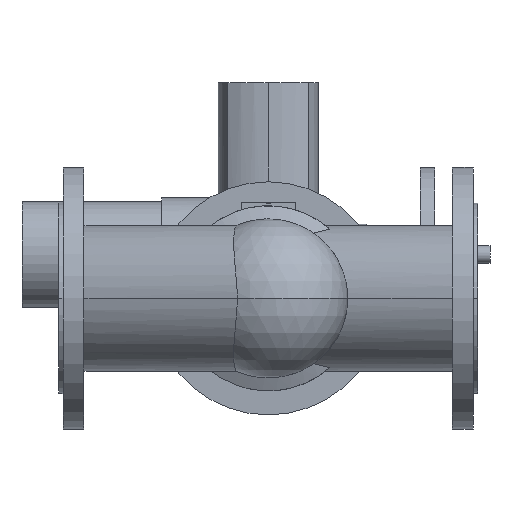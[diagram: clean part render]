
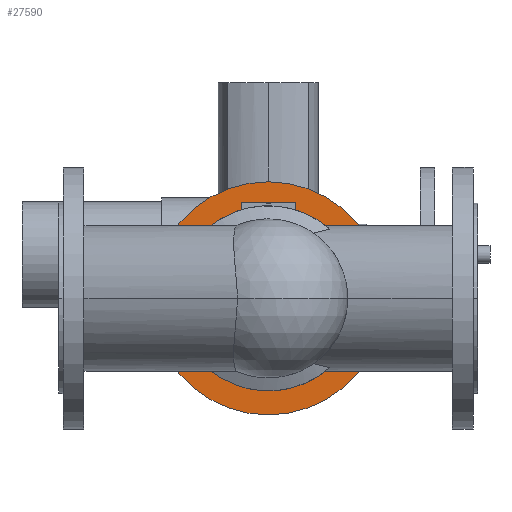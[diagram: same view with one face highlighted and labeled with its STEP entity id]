
A CAD part, front view. The second image highlights one B-rep face of the part: STEP entity #27590.
In plain terms, the highlighted planar face has unit normal (0, -1, 0).
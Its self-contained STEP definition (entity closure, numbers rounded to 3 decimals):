
#1320=CARTESIAN_POINT('',(106.5,143.2,0.));
#1330=VERTEX_POINT('',#1320);
#1380=CARTESIAN_POINT('',(240.,143.2,0.));
#1390=DIRECTION('',(0.,-1.,0.));
#1400=DIRECTION('',(-1.,0.,0.));
#1410=AXIS2_PLACEMENT_3D('',#1380,#1390,#1400);
#1420=CIRCLE('',#1410,133.5);
#1430=CARTESIAN_POINT('',(373.5,143.2,0.));
#1440=VERTEX_POINT('',#1430);
#1450=EDGE_CURVE('',#1330,#1440,#1420,.T.);
#1760=CARTESIAN_POINT('',(134.,143.2,0.));
#1770=VERTEX_POINT('',#1760);
#1800=CARTESIAN_POINT('',(240.,143.2,0.));
#1810=DIRECTION('',(0.,-1.,0.));
#1820=DIRECTION('',(-1.,0.,0.));
#1830=AXIS2_PLACEMENT_3D('',#1800,#1810,#1820);
#1840=CIRCLE('',#1830,106.);
#1850=CARTESIAN_POINT('',(346.,143.2,0.));
#1860=VERTEX_POINT('',#1850);
#1870=EDGE_CURVE('',#1860,#1770,#1840,.T.);
#27440=CARTESIAN_POINT('',(120.25,143.2,0.));
#27450=DIRECTION('',(0.,-1.,0.));
#27460=DIRECTION('',(-1.,0.,0.));
#27470=AXIS2_PLACEMENT_3D('',#27440,#27450,#27460);
#27480=PLANE('',#27470);
#27490=EDGE_CURVE('',#1770,#1860,#1840,.T.);
#27500=ORIENTED_EDGE('',*,*,#27490,.F.);
#27510=ORIENTED_EDGE('',*,*,#1870,.F.);
#27520=EDGE_LOOP('',(#27510,#27500));
#27530=FACE_BOUND('',#27520,.T.);
#27540=ORIENTED_EDGE('',*,*,#1450,.T.);
#27550=EDGE_CURVE('',#1440,#1330,#1420,.T.);
#27560=ORIENTED_EDGE('',*,*,#27550,.T.);
#27570=EDGE_LOOP('',(#27560,#27540));
#27580=FACE_OUTER_BOUND('',#27570,.T.);
#27590=ADVANCED_FACE('',(#27530,#27580),#27480,.T.);
